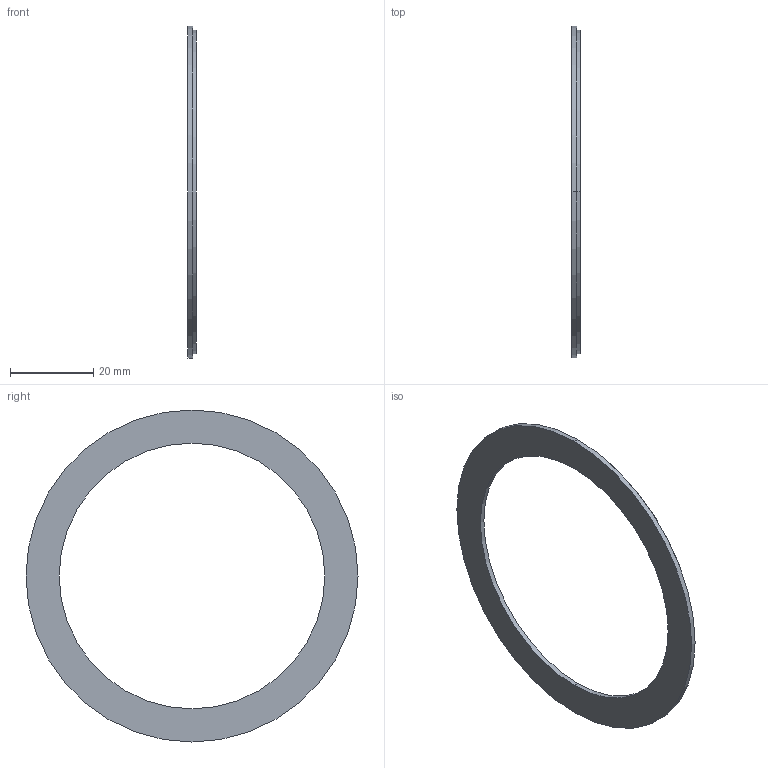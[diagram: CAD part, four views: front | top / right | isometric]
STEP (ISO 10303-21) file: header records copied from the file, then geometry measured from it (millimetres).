
FILE_DESCRIPTION (( 'STEP AP203' ), '1' );
FILE_NAME ('MRA080BG064DSN00D01_00.STEP', '2020-08-18T06:13:17', ( '' ), ( '' ), 'SwSTEP 2.0', 'SolidWorks 2016', '' );
FILE_SCHEMA (( 'CONFIG_CONTROL_DESIGN' ));
Length unit declared in the file: millimetre
Products named in the file (3): Elastoferrite 78-68_0.8; MN01732_Prirobnica_OD80_ID64_h1p2; MRA080BG064DSN00D01_00
Assembly tree (2 placements, depth 2):
  MRA080BG064DSN00D01_00
    MN01732_Prirobnica_OD80_ID64_h1p2
    Elastoferrite 78-68_0.8
Bounding box: 2 x 80 x 80 mm (x, y, z)
Volume: 3088.8 mm3; surface area: 6822.3 mm2
Topology: 2 solids, 2 shells, 12 faces, 24 edges, 16 vertices
Faces by surface type: cylinder 8, plane 4
Entity records: 637 total; most frequent: DIRECTION 74, CARTESIAN_POINT 57, ORIENTED_EDGE 48, AXIS2_PLACEMENT_3D 33, PERSON_AND_ORGANIZATION 26, EDGE_CURVE 24, CALENDAR_DATE 19, DATE_AND_TIME 19
